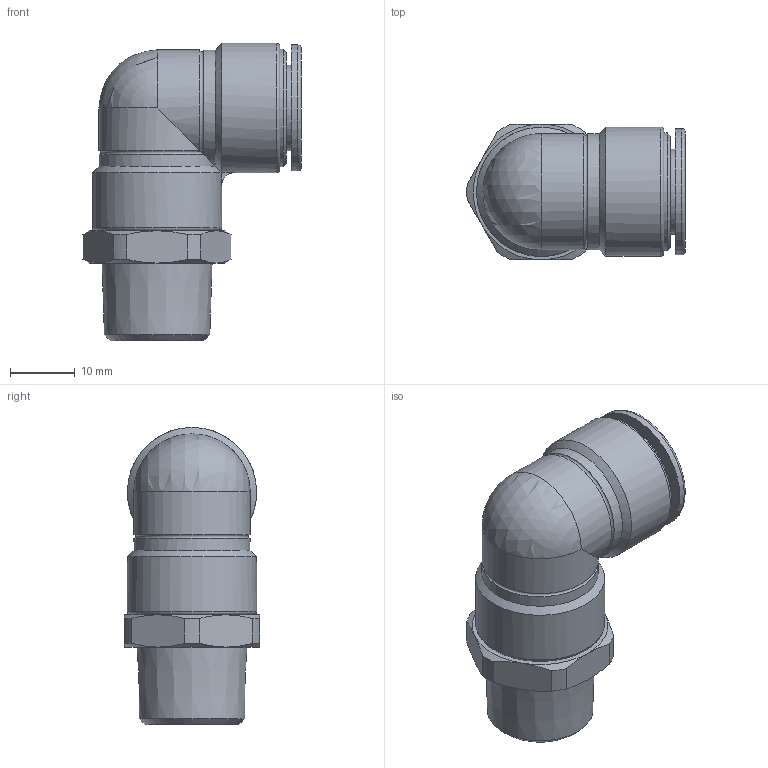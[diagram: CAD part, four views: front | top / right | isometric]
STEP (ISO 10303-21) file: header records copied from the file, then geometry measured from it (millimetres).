
FILE_DESCRIPTION(/* description */ (''),/* implementation_level */ '2;1');
FILE_NAME(/* name */ 'E:\2013年度版　3D-DATA\【02】 TOUCH CONNECTOR FIVE SUS\[02] MALE ELBOW\[16] FS12-03ML FS12-03MLW.stp',/* time_stamp */ '2013-08-06T16:48:19+09:00',/* author */ ('takahashi-pc2'),/* organization */ (''),/* preprocessor_version */ 'ST-DEVELOPER v15.2',/* originating_system */ 'Autodesk Inventor 2014',/* authorisation */ '');
FILE_SCHEMA (('AUTOMOTIVE_DESIGN { 1 0 10303 214 3 1 1 }'));
Length unit declared in the file: millimetre
Products named in the file (1): [16] FS12-03ML FS12-03MLW
Bounding box: 33.79 x 21 x 46 mm (x, y, z)
Volume: 14105.4 mm3; surface area: 5024.2 mm2
Topology: 1 solids, 1 shells, 60 faces, 135 edges, 81 vertices
Faces by surface type: plane 20, cone 17, cylinder 17, torus 5, sphere 1
Full cylindrical faces by diameter (mm): 12 x1, 13.2 x1, 18.2 x1, 19.5 x1, 20 x2
Entity records: 1623 total; most frequent: CARTESIAN_POINT 363, DIRECTION 272, ORIENTED_EDGE 242, AXIS2_PLACEMENT_3D 122, EDGE_CURVE 121, VERTEX_POINT 81, EDGE_LOOP 78, ADVANCED_FACE 60
